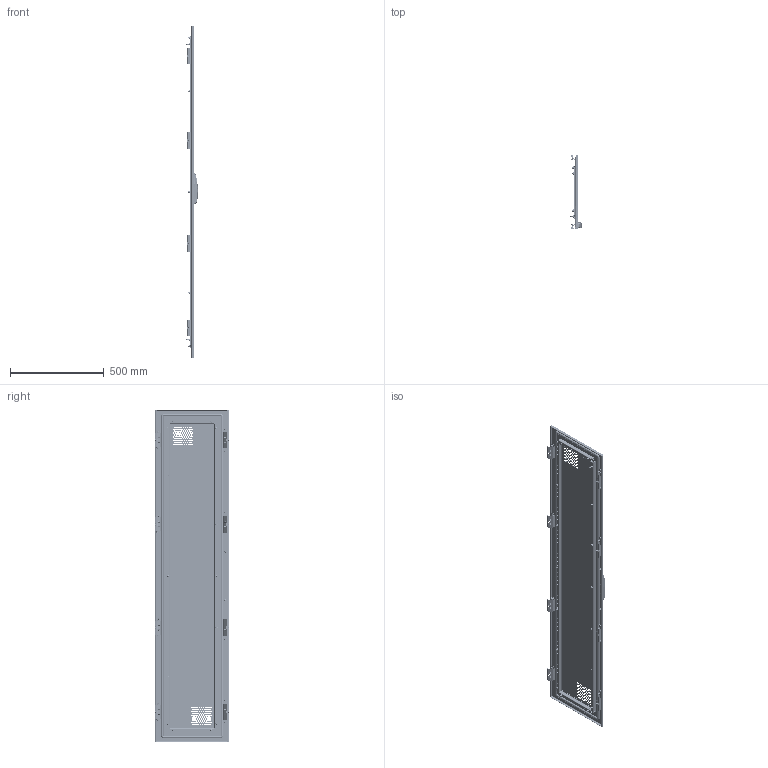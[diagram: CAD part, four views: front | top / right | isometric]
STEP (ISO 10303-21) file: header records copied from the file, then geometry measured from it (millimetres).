
FILE_DESCRIPTION(('STEP AP203'), '1');
FILE_NAME('3410.Ï.180.40 Äâåðü ïåðôîðèðîâàííàÿ ÑÁ', '', ('UNSPECIFIED'), ('UNSPECIFIED'), 'C3D Converter', 'C3D Toolkit', '');
FILE_SCHEMA(('CONFIG_CONTROL_DESIGN'));
Length unit declared in the file: millimetre
Products named in the file (29): 3410.П.180.40 СБ; 3420.П; 3423; 3422.01; 3412; 3411; 868-000A_ASM; 868-000B; 868-000C; TS003-3; TS003-2; ёЗ豹X2\0435\X0\; 3009.05; 3009.05.01; 3622.01; 3009.08; 3009.08.01
Assembly tree (126 placements, depth 4):
  3410.П.180.40 СБ
    3420.П
      3423
      3422.01  x4
      (unnamed)  x16
      (unnamed)  x8
      (unnamed)  x2
    3412  x2
    3411  x2
    (unnamed)  x4
    (unnamed)  x18
    (unnamed)  x26
    (unnamed)  x8
    (unnamed)
      868-000A_ASM
        868-000B
        868-000C
        TS003-3
        TS003-2
        ёЗ豹X2\0435\X0\
      TS003-2
    (unnamed)  x2
    3009.05  x4
      3009.05.01
      (unnamed)
      (unnamed)
    3622.01  x4
    (unnamed)  x4
    3009.08  x4
      3009.08.01
      (unnamed)
      (unnamed)
Bounding box: 59.5 x 397.03 x 1771 mm (x, y, z)
Volume: 1964612.6 mm3; surface area: 2471164.3 mm2
Topology: 141 solids, 141 shells, 4755 faces, 12036 edges, 7762 vertices
Faces by surface type: plane 2644, cylinder 1270, cone 554, bspline 191, torus 85, sphere 11
Full cylindrical faces by diameter (mm): 0.5 x26, 4.134 x8, 4.3 x2, 4.5 x134, 4.917 x26, 5 x24, 5.2 x2, 5.8 x8, 6 x38, 6.1 x4, 6.6 x26, 6.75 x26, 7 x8, 7.3 x26, 7.5 x26, 8 x228, 8.3 x16, 8.5 x2, 9.2 x18, 10 x27, 10.5 x4, 12 x30, 13 x1, 15 x1, 20.7 x2, 21 x1
Entity records: 77852 total; most frequent: CARTESIAN_POINT 32345, DIRECTION 7782, ORIENTED_EDGE 7762, EDGE_CURVE 3881, AXIS2_PLACEMENT_3D 2961, EDGE_LOOP 2737, VERTEX_POINT 2704, FACE_BOUND 1959
